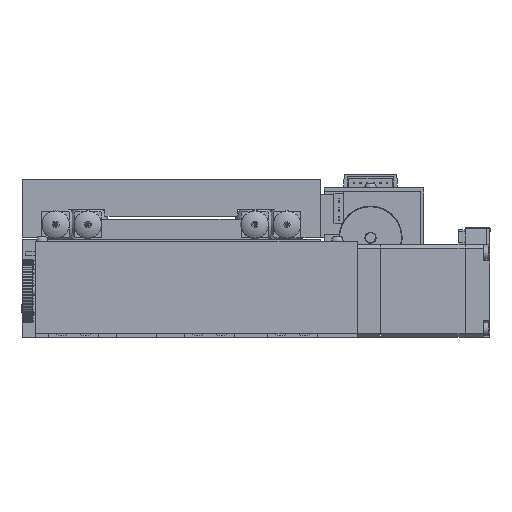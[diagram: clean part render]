
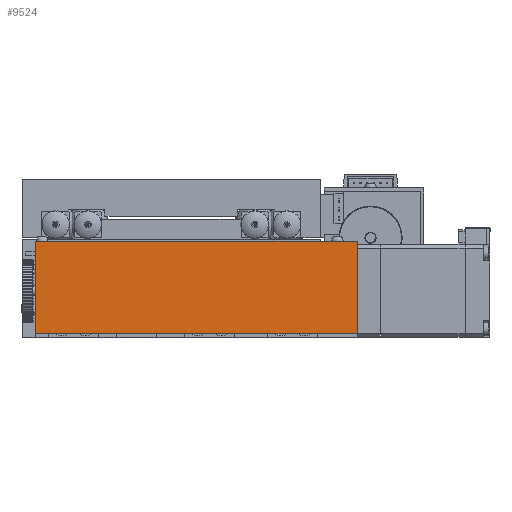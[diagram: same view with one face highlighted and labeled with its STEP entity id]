
A CAD part, left-side view. The second image highlights one B-rep face of the part: STEP entity #9524.
In plain terms, the highlighted planar face has unit normal (-1, 0, 0).
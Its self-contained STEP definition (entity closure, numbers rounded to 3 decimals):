
#318 = FACE_OUTER_BOUND ( 'NONE', #33794, .T. ) ;
#1341 = VERTEX_POINT ( 'NONE', #6105 ) ;
#1365 = VERTEX_POINT ( 'NONE', #6146 ) ;
#1369 = VERTEX_POINT ( 'NONE', #6151 ) ;
#1373 = VERTEX_POINT ( 'NONE', #6158 ) ;
#6105 = CARTESIAN_POINT ( 'NONE',  ( -173.696, -9.732, 24. ) ) ;
#6117 = CARTESIAN_POINT ( 'NONE',  ( -173.696, -9.732, 24. ) ) ;
#6145 = DIRECTION ( 'NONE',  ( 0., -1., 0. ) ) ;
#6146 = CARTESIAN_POINT ( 'NONE',  ( -173.696, -106.732, -4. ) ) ;
#6151 = CARTESIAN_POINT ( 'NONE',  ( -173.696, -9.732, -4. ) ) ;
#6158 = CARTESIAN_POINT ( 'NONE',  ( -173.696, -106.732, 24. ) ) ;
#6193 = CARTESIAN_POINT ( 'NONE',  ( -173.696, -9.732, 24. ) ) ;
#6206 = CARTESIAN_POINT ( 'NONE',  ( -173.696, -9.732, -4. ) ) ;
#6209 = DIRECTION ( 'NONE',  ( 0., -1., 0. ) ) ;
#6215 = CARTESIAN_POINT ( 'NONE',  ( -173.696, -106.732, 24. ) ) ;
#6218 = DIRECTION ( 'NONE',  ( 0., 0., 1. ) ) ;
#6226 = DIRECTION ( 'NONE',  ( 0., 0., 1. ) ) ;
#9524 = ADVANCED_FACE ( 'NONE', ( #318 ), #14840, .F. ) ;
#9985 = EDGE_CURVE ( 'NONE', #1341, #1373, #13211, .T. ) ;
#9996 = EDGE_CURVE ( 'NONE', #1369, #1365, #13166, .T. ) ;
#9998 = EDGE_CURVE ( 'NONE', #1365, #1373, #13160, .T. ) ;
#10000 = EDGE_CURVE ( 'NONE', #1369, #1341, #13163, .T. ) ;
#13145 = VECTOR ( 'NONE', #6226, 1000. ) ;
#13153 = VECTOR ( 'NONE', #6218, 1000. ) ;
#13160 = LINE ( 'NONE', #6215, #13153 ) ;
#13161 = VECTOR ( 'NONE', #6209, 1000. ) ;
#13163 = LINE ( 'NONE', #6193, #13145 ) ;
#13166 = LINE ( 'NONE', #6206, #13161 ) ;
#13196 = VECTOR ( 'NONE', #6145, 1000. ) ;
#13211 = LINE ( 'NONE', #6117, #13196 ) ;
#13669 = AXIS2_PLACEMENT_3D ( 'NONE', #14822, #14844, #14847 ) ;
#14822 = CARTESIAN_POINT ( 'NONE',  ( -173.696, -9.732, 24. ) ) ;
#14840 = PLANE ( 'NONE',  #13669 ) ;
#14844 = DIRECTION ( 'NONE',  ( 1., 0., 0. ) ) ;
#14847 = DIRECTION ( 'NONE',  ( 0., 0., -1. ) ) ;
#20201 = ORIENTED_EDGE ( 'NONE', *, *, #9996, .T. ) ;
#20202 = ORIENTED_EDGE ( 'NONE', *, *, #10000, .F. ) ;
#20203 = ORIENTED_EDGE ( 'NONE', *, *, #9985, .F. ) ;
#20204 = ORIENTED_EDGE ( 'NONE', *, *, #9998, .T. ) ;
#33794 = EDGE_LOOP ( 'NONE', ( #20204, #20203, #20202, #20201 ) ) ;
